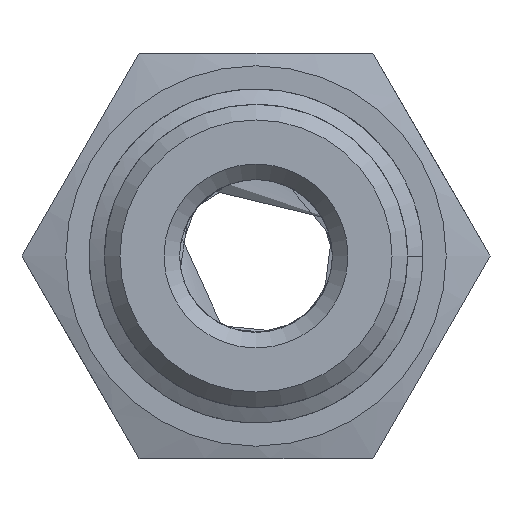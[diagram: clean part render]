
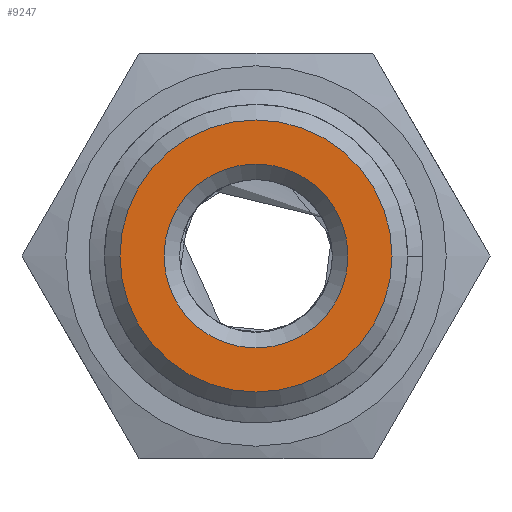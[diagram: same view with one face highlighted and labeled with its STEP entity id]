
A CAD part, front view. The second image highlights one B-rep face of the part: STEP entity #9247.
In plain terms, the highlighted planar face has unit normal (0, -1, 0).
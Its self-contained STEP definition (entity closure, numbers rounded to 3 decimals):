
#726 = AXIS2_PLACEMENT_3D ( 'NONE', #8888, #9044, #13634 ) ;
#1743 = AXIS2_PLACEMENT_3D ( 'NONE', #13712, #7931, #12445 ) ;
#1875 = ORIENTED_EDGE ( 'NONE', *, *, #9160, .F. ) ;
#3118 = FACE_OUTER_BOUND ( 'NONE', #6212, .T. ) ;
#4064 = FACE_BOUND ( 'NONE', #8834, .T. ) ;
#4297 = CARTESIAN_POINT ( 'NONE',  ( 0., 0., 0. ) ) ;
#6212 = EDGE_LOOP ( 'NONE', ( #1875 ) ) ;
#6275 = AXIS2_PLACEMENT_3D ( 'NONE', #4297, #7696, #9122 ) ;
#7696 = DIRECTION ( 'NONE',  ( 0., 1., 0. ) ) ;
#7931 = DIRECTION ( 'NONE',  ( 0., 1., 0. ) ) ;
#8539 = CIRCLE ( 'NONE', #726, 2.95 ) ;
#8666 = EDGE_CURVE ( 'NONE', #11147, #11147, #8539, .T. ) ;
#8834 = EDGE_LOOP ( 'NONE', ( #11279 ) ) ;
#8888 = CARTESIAN_POINT ( 'NONE',  ( 0., 0., 0. ) ) ;
#9044 = DIRECTION ( 'NONE',  ( 0., 1., 0. ) ) ;
#9122 = DIRECTION ( 'NONE',  ( 0., 0., 1. ) ) ;
#9160 = EDGE_CURVE ( 'NONE', #12336, #12336, #13109, .T. ) ;
#9247 = ADVANCED_FACE ( 'NONE', ( #3118, #4064 ), #14973, .F. ) ;
#10909 = CARTESIAN_POINT ( 'NONE',  ( 0., 0., 4.364 ) ) ;
#11147 = VERTEX_POINT ( 'NONE', #12640 ) ;
#11279 = ORIENTED_EDGE ( 'NONE', *, *, #8666, .T. ) ;
#12336 = VERTEX_POINT ( 'NONE', #10909 ) ;
#12445 = DIRECTION ( 'NONE',  ( 0., 0., 1. ) ) ;
#12640 = CARTESIAN_POINT ( 'NONE',  ( 0., 0., 2.95 ) ) ;
#13109 = CIRCLE ( 'NONE', #6275, 4.364 ) ;
#13634 = DIRECTION ( 'NONE',  ( 0., 0., 1. ) ) ;
#13712 = CARTESIAN_POINT ( 'NONE',  ( 2.95, 0., 0. ) ) ;
#14973 = PLANE ( 'NONE',  #1743 ) ;
